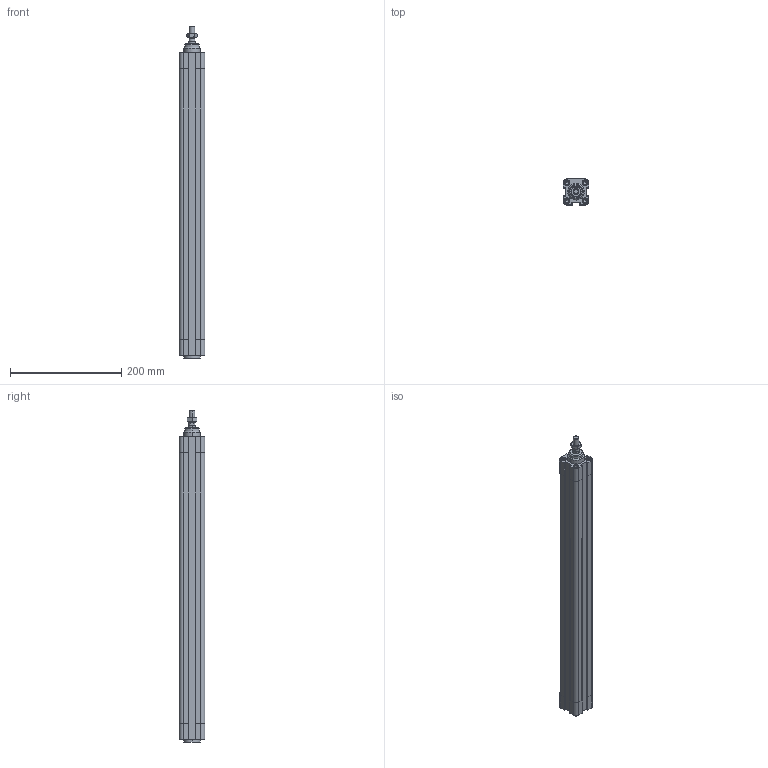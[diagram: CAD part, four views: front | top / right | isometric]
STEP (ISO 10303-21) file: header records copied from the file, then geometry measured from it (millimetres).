
FILE_DESCRIPTION((''),'2;1');
FILE_NAME('F:\Lib-3d\1380\CIL\1380_32_0450_01.stp','2004-01-07T16:00:40',('maffial1'),(''),'Autodesk Inventor 8','Autodesk Inventor 8','');
FILE_SCHEMA(('AUTOMOTIVE_DESIGN { 1 0 10303 214 1 1 1 1 }'));
Length unit declared in the file: millimetre
Products named in the file (4): 1380_32_0450_01; CPP01_32_450; CPP02_32_450; 1320_32_18F
Assembly tree (3 placements, depth 2):
  1380_32_0450_01
    CPP01_32_450
    CPP02_32_450
    1320_32_18F
Bounding box: 46 x 46 x 596 mm (x, y, z)
Volume: 1024765.3 mm3; surface area: 169154 mm2
Topology: 3 solids, 3 shells, 244 faces, 570 edges, 356 vertices
Faces by surface type: plane 83, bspline 67, cylinder 58, cone 34, torus 2
Entity records: 7668 total; most frequent: CARTESIAN_POINT 2166, DIRECTION 1136, ORIENTED_EDGE 1108, EDGE_CURVE 554, AXIS2_PLACEMENT_3D 422, VERTEX_POINT 356, VECTOR 292, LINE 292
